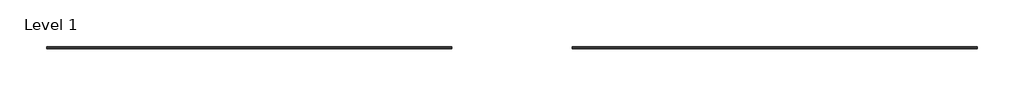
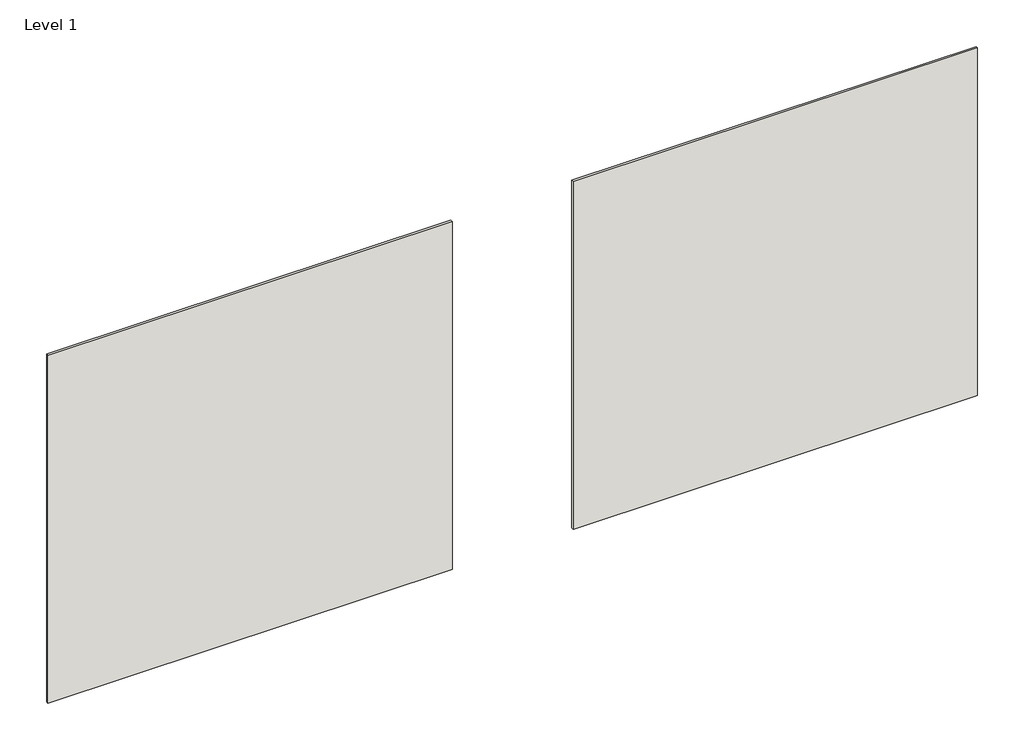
# One storey: 2 walls.
"""IFC4 building model written with IfcOpenShell, lengths in millimetres."""

from ifc_helpers import new_model, si_unit, origin, origin_with_axes, place, context, project, spatial, polyline, outline, extrude, element, save

model = new_model("IFC4")

# Units and contexts
model_context = context("Model", 3, world=origin())
ifc_project = project(units=[si_unit("LENGTHUNIT", "METRE", prefix="MILLI")], contexts=[model_context])

# Site, building, storey
site = spatial("IfcSite", under=ifc_project)
building = spatial("IfcBuilding", under=site)
storey = spatial("IfcBuildingStorey", under=building, Name="Level 1", Elevation=0.0)

# Walls
placement = place(None, origin())
element("IfcWall", 1, ObjectType="Wood Siding - Thermory - Clear Pine Cladding 20x138 C25 - Smooth", at=placement, inside=storey, context=model_context, shape_type="SweptSolid", body=[
    extrude(outline(polyline([(8526.589273, 3746.8965289), (5173.789273, 3746.8965289), (5173.789273, 3766.8965289), (8526.589273, 3766.8965289), (8526.589273, 3746.8965289)])), origin_with_axes(), (0.0, 0.0, 1.0), 3048.0),
])
element("IfcWall", 2, ObjectType="Wood Siding - Thermory - Clear Pine Cladding 20x138 CAR3 - Smooth", at=placement, inside=storey, context=model_context, shape_type="SweptSolid", body=[
    extrude(outline(polyline([(12879.389273, 3746.8965289), (9526.589273, 3746.8965289), (9526.589273, 3766.8965289), (12879.389273, 3766.8965289), (12879.389273, 3746.8965289)])), origin_with_axes(), (0.0, 0.0, 1.0), 3048.0),
])

save(model, "model.ifc")
